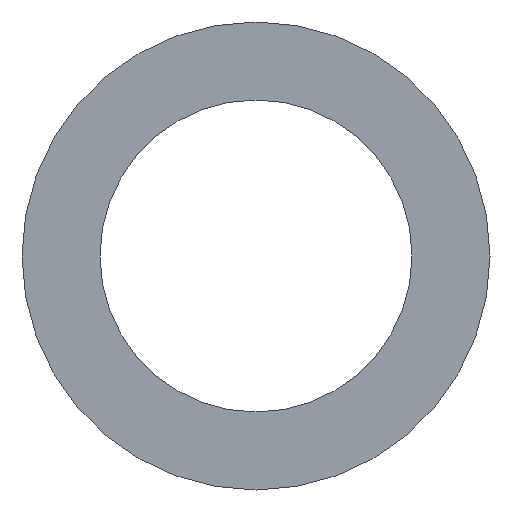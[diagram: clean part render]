
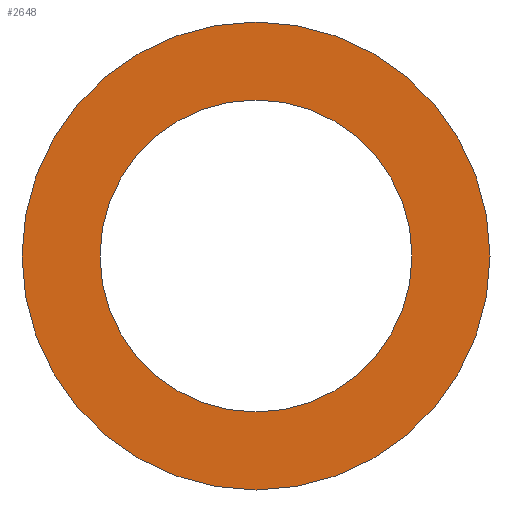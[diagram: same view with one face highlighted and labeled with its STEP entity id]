
A CAD part, front view. The second image highlights one B-rep face of the part: STEP entity #2648.
In plain terms, the highlighted planar face has unit normal (0, -1, 0).
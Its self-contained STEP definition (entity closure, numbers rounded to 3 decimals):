
#178 = CARTESIAN_POINT ( 'NONE',  ( 0., -19., -45. ) ) ;
#216 = AXIS2_PLACEMENT_3D ( 'NONE', #3401, #3418, #1930 ) ;
#264 = VERTEX_POINT ( 'NONE', #2885 ) ;
#454 = DIRECTION ( 'NONE',  ( 0., 1., 0. ) ) ;
#559 = DIRECTION ( 'NONE',  ( 0., -1., 0. ) ) ;
#573 = CIRCLE ( 'NONE', #216, 30. ) ;
#718 = DIRECTION ( 'NONE',  ( 0., 0., -1. ) ) ;
#972 = CARTESIAN_POINT ( 'NONE',  ( 0., -19., 0. ) ) ;
#1078 = DIRECTION ( 'NONE',  ( 0., -1., 0. ) ) ;
#1119 = CARTESIAN_POINT ( 'NONE',  ( 0., -19., 45. ) ) ;
#1243 = EDGE_LOOP ( 'NONE', ( #2434, #1935 ) ) ;
#1268 = FACE_BOUND ( 'NONE', #1243, .T. ) ;
#1588 = DIRECTION ( 'NONE',  ( 0., -1., 0. ) ) ;
#1622 = ORIENTED_EDGE ( 'NONE', *, *, #2668, .T. ) ;
#1629 = VERTEX_POINT ( 'NONE', #178 ) ;
#1634 = ORIENTED_EDGE ( 'NONE', *, *, #2859, .T. ) ;
#1664 = CARTESIAN_POINT ( 'NONE',  ( 0., -19., 0. ) ) ;
#1741 = CIRCLE ( 'NONE', #2380, 30. ) ;
#1776 = VERTEX_POINT ( 'NONE', #3620 ) ;
#1874 = EDGE_CURVE ( 'NONE', #264, #1776, #573, .T. ) ;
#1930 = DIRECTION ( 'NONE',  ( 0., 0., -1. ) ) ;
#1935 = ORIENTED_EDGE ( 'NONE', *, *, #1874, .F. ) ;
#1962 = DIRECTION ( 'NONE',  ( 0., 0., -1. ) ) ;
#2146 = CARTESIAN_POINT ( 'NONE',  ( 0., -19., 30. ) ) ;
#2380 = AXIS2_PLACEMENT_3D ( 'NONE', #3135, #1078, #1962 ) ;
#2428 = AXIS2_PLACEMENT_3D ( 'NONE', #2146, #454, #3346 ) ;
#2434 = ORIENTED_EDGE ( 'NONE', *, *, #2840, .F. ) ;
#2524 = DIRECTION ( 'NONE',  ( 0., 0., -1. ) ) ;
#2648 = ADVANCED_FACE ( 'NONE', ( #1268, #2729 ), #3572, .F. ) ;
#2668 = EDGE_CURVE ( 'NONE', #2902, #1629, #2858, .T. ) ;
#2729 = FACE_OUTER_BOUND ( 'NONE', #3082, .T. ) ;
#2840 = EDGE_CURVE ( 'NONE', #1776, #264, #1741, .T. ) ;
#2858 = CIRCLE ( 'NONE', #3203, 45. ) ;
#2859 = EDGE_CURVE ( 'NONE', #1629, #2902, #3151, .T. ) ;
#2885 = CARTESIAN_POINT ( 'NONE',  ( 0., -19., 30. ) ) ;
#2902 = VERTEX_POINT ( 'NONE', #1119 ) ;
#3082 = EDGE_LOOP ( 'NONE', ( #1634, #1622 ) ) ;
#3135 = CARTESIAN_POINT ( 'NONE',  ( 0., -19., 0. ) ) ;
#3151 = CIRCLE ( 'NONE', #3375, 45. ) ;
#3203 = AXIS2_PLACEMENT_3D ( 'NONE', #972, #1588, #718 ) ;
#3346 = DIRECTION ( 'NONE',  ( 0., 0., 1. ) ) ;
#3375 = AXIS2_PLACEMENT_3D ( 'NONE', #1664, #559, #2524 ) ;
#3401 = CARTESIAN_POINT ( 'NONE',  ( 0., -19., 0. ) ) ;
#3418 = DIRECTION ( 'NONE',  ( 0., -1., 0. ) ) ;
#3572 = PLANE ( 'NONE',  #2428 ) ;
#3620 = CARTESIAN_POINT ( 'NONE',  ( 0., -19., -30. ) ) ;
